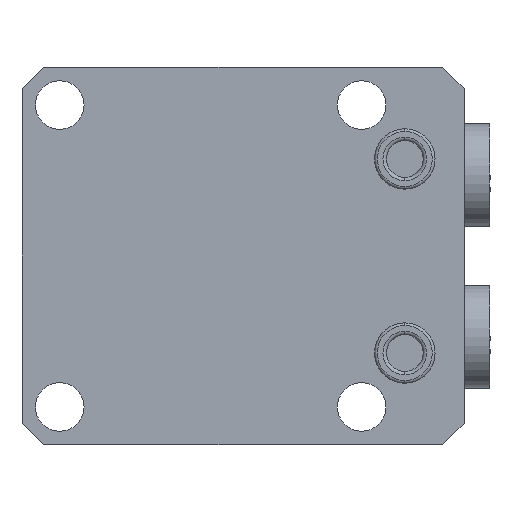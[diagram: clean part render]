
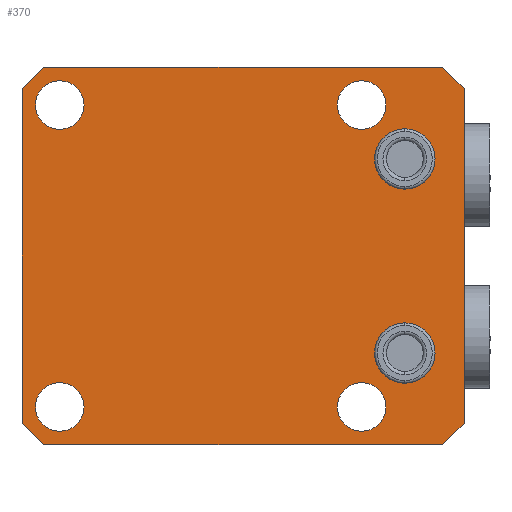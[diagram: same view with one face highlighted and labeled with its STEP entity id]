
A CAD part, front view. The second image highlights one B-rep face of the part: STEP entity #370.
In plain terms, the highlighted planar face has unit normal (0, -1, 0).
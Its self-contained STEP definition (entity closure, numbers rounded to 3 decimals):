
#232=PLANE('',#2701);
#293=FACE_BOUND('',#718,.T.);
#294=FACE_BOUND('',#719,.T.);
#295=FACE_BOUND('',#720,.T.);
#296=FACE_BOUND('',#721,.T.);
#297=FACE_BOUND('',#722,.T.);
#298=FACE_BOUND('',#723,.T.);
#299=FACE_BOUND('',#724,.T.);
#370=ADVANCED_FACE('',(#293,#294,#295,#296,#297,#298,#299),#232,.F.);
#718=EDGE_LOOP('',(#1128,#1129,#1130,#1131,#1132,#1133,#1134,#1135));
#719=EDGE_LOOP('',(#1136,#1137));
#720=EDGE_LOOP('',(#1138,#1139));
#721=EDGE_LOOP('',(#1140,#1141));
#722=EDGE_LOOP('',(#1142,#1143));
#723=EDGE_LOOP('',(#1144,#1145));
#724=EDGE_LOOP('',(#1146,#1147));
#911=CIRCLE('',#2672,4.5);
#913=CIRCLE('',#2675,4.5);
#915=CIRCLE('',#2678,4.5);
#917=CIRCLE('',#2681,4.5);
#921=CIRCLE('',#2687,5.6);
#923=CIRCLE('',#2691,5.6);
#925=CIRCLE('',#2694,5.6);
#926=CIRCLE('',#2696,4.5);
#927=CIRCLE('',#2697,4.5);
#928=CIRCLE('',#2698,4.5);
#929=CIRCLE('',#2699,4.5);
#930=CIRCLE('',#2700,5.6);
#1128=ORIENTED_EDGE('',*,*,#2049,.F.);
#1129=ORIENTED_EDGE('',*,*,#2050,.T.);
#1130=ORIENTED_EDGE('',*,*,#2051,.F.);
#1131=ORIENTED_EDGE('',*,*,#2052,.T.);
#1132=ORIENTED_EDGE('',*,*,#1970,.F.);
#1133=ORIENTED_EDGE('',*,*,#2053,.T.);
#1134=ORIENTED_EDGE('',*,*,#2054,.F.);
#1135=ORIENTED_EDGE('',*,*,#2055,.T.);
#1136=ORIENTED_EDGE('',*,*,#2020,.F.);
#1137=ORIENTED_EDGE('',*,*,#2056,.F.);
#1138=ORIENTED_EDGE('',*,*,#2016,.F.);
#1139=ORIENTED_EDGE('',*,*,#2057,.F.);
#1140=ORIENTED_EDGE('',*,*,#2012,.F.);
#1141=ORIENTED_EDGE('',*,*,#2058,.F.);
#1142=ORIENTED_EDGE('',*,*,#2008,.F.);
#1143=ORIENTED_EDGE('',*,*,#2059,.F.);
#1144=ORIENTED_EDGE('',*,*,#2060,.F.);
#1145=ORIENTED_EDGE('',*,*,#2030,.F.);
#1146=ORIENTED_EDGE('',*,*,#2045,.T.);
#1147=ORIENTED_EDGE('',*,*,#2048,.T.);
#1744=VERTEX_POINT('',#3741);
#1745=VERTEX_POINT('',#3743);
#1774=VERTEX_POINT('',#3820);
#1775=VERTEX_POINT('',#3821);
#1778=VERTEX_POINT('',#3829);
#1779=VERTEX_POINT('',#3830);
#1782=VERTEX_POINT('',#3838);
#1783=VERTEX_POINT('',#3839);
#1786=VERTEX_POINT('',#3847);
#1787=VERTEX_POINT('',#3848);
#1794=VERTEX_POINT('',#3871);
#1795=VERTEX_POINT('',#3873);
#1808=VERTEX_POINT('',#3934);
#1809=VERTEX_POINT('',#3936);
#1810=VERTEX_POINT('',#3943);
#1811=VERTEX_POINT('',#3944);
#1812=VERTEX_POINT('',#3946);
#1813=VERTEX_POINT('',#3948);
#1814=VERTEX_POINT('',#3951);
#1815=VERTEX_POINT('',#3953);
#1970=EDGE_CURVE('',#1744,#1745,#2315,.T.);
#2008=EDGE_CURVE('',#1774,#1775,#911,.T.);
#2012=EDGE_CURVE('',#1778,#1779,#913,.T.);
#2016=EDGE_CURVE('',#1782,#1783,#915,.T.);
#2020=EDGE_CURVE('',#1786,#1787,#917,.T.);
#2030=EDGE_CURVE('',#1794,#1795,#921,.T.);
#2045=EDGE_CURVE('',#1809,#1808,#923,.T.);
#2048=EDGE_CURVE('',#1808,#1809,#925,.T.);
#2049=EDGE_CURVE('',#1810,#1811,#2339,.T.);
#2050=EDGE_CURVE('',#1810,#1812,#2340,.T.);
#2051=EDGE_CURVE('',#1813,#1812,#2341,.T.);
#2052=EDGE_CURVE('',#1813,#1745,#2342,.T.);
#2053=EDGE_CURVE('',#1744,#1814,#2343,.T.);
#2054=EDGE_CURVE('',#1815,#1814,#2344,.T.);
#2055=EDGE_CURVE('',#1815,#1811,#2345,.T.);
#2056=EDGE_CURVE('',#1787,#1786,#926,.T.);
#2057=EDGE_CURVE('',#1783,#1782,#927,.T.);
#2058=EDGE_CURVE('',#1779,#1778,#928,.T.);
#2059=EDGE_CURVE('',#1775,#1774,#929,.T.);
#2060=EDGE_CURVE('',#1795,#1794,#930,.T.);
#2315=LINE('',#3742,#2467);
#2339=LINE('',#3942,#2491);
#2340=LINE('',#3945,#2492);
#2341=LINE('',#3947,#2493);
#2342=LINE('',#3949,#2494);
#2343=LINE('',#3950,#2495);
#2344=LINE('',#3952,#2496);
#2345=LINE('',#3954,#2497);
#2467=VECTOR('',#2964,1.);
#2491=VECTOR('',#3116,1.);
#2492=VECTOR('',#3117,1.);
#2493=VECTOR('',#3118,1.);
#2494=VECTOR('',#3119,1.);
#2495=VECTOR('',#3120,1.);
#2496=VECTOR('',#3121,1.);
#2497=VECTOR('',#3122,1.);
#2672=AXIS2_PLACEMENT_3D('',#3819,#3052,#3053);
#2675=AXIS2_PLACEMENT_3D('',#3828,#3060,#3061);
#2678=AXIS2_PLACEMENT_3D('',#3837,#3068,#3069);
#2681=AXIS2_PLACEMENT_3D('',#3846,#3076,#3077);
#2687=AXIS2_PLACEMENT_3D('',#3872,#3093,#3094);
#2691=AXIS2_PLACEMENT_3D('',#3935,#3105,#3106);
#2694=AXIS2_PLACEMENT_3D('',#3940,#3112,#3113);
#2696=AXIS2_PLACEMENT_3D('',#3955,#3123,#3124);
#2697=AXIS2_PLACEMENT_3D('',#3956,#3125,#3126);
#2698=AXIS2_PLACEMENT_3D('',#3957,#3127,#3128);
#2699=AXIS2_PLACEMENT_3D('',#3958,#3129,#3130);
#2700=AXIS2_PLACEMENT_3D('',#3959,#3131,#3132);
#2701=AXIS2_PLACEMENT_3D('',#3960,#3133,#3134);
#2964=DIRECTION('',(0.,0.,-1.));
#3052=DIRECTION('',(0.,-1.,0.));
#3053=DIRECTION('',(0.,0.,1.));
#3060=DIRECTION('',(0.,-1.,0.));
#3061=DIRECTION('',(0.,0.,1.));
#3068=DIRECTION('',(0.,-1.,0.));
#3069=DIRECTION('',(0.,0.,1.));
#3076=DIRECTION('',(0.,-1.,0.));
#3077=DIRECTION('',(0.,0.,1.));
#3093=DIRECTION('',(0.,-1.,0.));
#3094=DIRECTION('',(0.,0.,-1.));
#3105=DIRECTION('',(0.,1.,0.));
#3106=DIRECTION('',(0.,0.,1.));
#3112=DIRECTION('',(0.,1.,0.));
#3113=DIRECTION('',(0.,0.,1.));
#3116=DIRECTION('',(0.,0.,1.));
#3117=DIRECTION('',(0.707,0.,-0.707));
#3118=DIRECTION('',(-1.,0.,0.));
#3119=DIRECTION('',(0.707,0.,0.707));
#3120=DIRECTION('',(-0.707,0.,0.707));
#3121=DIRECTION('',(1.,0.,0.));
#3122=DIRECTION('',(-0.707,0.,-0.707));
#3123=DIRECTION('',(0.,-1.,0.));
#3124=DIRECTION('',(0.,0.,1.));
#3125=DIRECTION('',(0.,-1.,0.));
#3126=DIRECTION('',(0.,0.,1.));
#3127=DIRECTION('',(0.,-1.,0.));
#3128=DIRECTION('',(0.,0.,1.));
#3129=DIRECTION('',(0.,-1.,0.));
#3130=DIRECTION('',(0.,0.,1.));
#3131=DIRECTION('',(0.,-1.,0.));
#3132=DIRECTION('',(0.,0.,-1.));
#3133=DIRECTION('',(0.,1.,0.));
#3134=DIRECTION('',(0.,0.,1.));
#3741=CARTESIAN_POINT('',(47.,0.,31.));
#3742=CARTESIAN_POINT('',(47.,0.,-35.));
#3743=CARTESIAN_POINT('',(47.,0.,-31.));
#3819=CARTESIAN_POINT('',(-28.,0.,28.));
#3820=CARTESIAN_POINT('',(-28.,0.,32.5));
#3821=CARTESIAN_POINT('',(-28.,0.,23.5));
#3828=CARTESIAN_POINT('',(28.,0.,28.));
#3829=CARTESIAN_POINT('',(28.,0.,32.5));
#3830=CARTESIAN_POINT('',(28.,0.,23.5));
#3837=CARTESIAN_POINT('',(-28.,0.,-28.));
#3838=CARTESIAN_POINT('',(-28.,0.,-23.5));
#3839=CARTESIAN_POINT('',(-28.,0.,-32.5));
#3846=CARTESIAN_POINT('',(28.,0.,-28.));
#3847=CARTESIAN_POINT('',(28.,0.,-23.5));
#3848=CARTESIAN_POINT('',(28.,0.,-32.5));
#3871=CARTESIAN_POINT('',(36.,0.,-12.4));
#3872=CARTESIAN_POINT('',(36.,0.,-18.));
#3873=CARTESIAN_POINT('',(36.,0.,-23.6));
#3934=CARTESIAN_POINT('',(36.,0.,23.6));
#3935=CARTESIAN_POINT('',(36.,0.,18.));
#3936=CARTESIAN_POINT('',(36.,0.,12.4));
#3940=CARTESIAN_POINT('',(36.,0.,18.));
#3942=CARTESIAN_POINT('',(-35.,0.,-35.));
#3943=CARTESIAN_POINT('',(-35.,0.,-31.));
#3944=CARTESIAN_POINT('',(-35.,0.,31.));
#3945=CARTESIAN_POINT('',(-35.,0.,-31.));
#3946=CARTESIAN_POINT('',(-31.,0.,-35.));
#3947=CARTESIAN_POINT('',(-35.,0.,-35.));
#3948=CARTESIAN_POINT('',(43.,0.,-35.));
#3949=CARTESIAN_POINT('',(43.,0.,-35.));
#3950=CARTESIAN_POINT('',(47.,0.,31.));
#3951=CARTESIAN_POINT('',(43.,0.,35.));
#3952=CARTESIAN_POINT('',(-35.,0.,35.));
#3953=CARTESIAN_POINT('',(-31.,0.,35.));
#3954=CARTESIAN_POINT('',(-31.,0.,35.));
#3955=CARTESIAN_POINT('',(28.,0.,-28.));
#3956=CARTESIAN_POINT('',(-28.,0.,-28.));
#3957=CARTESIAN_POINT('',(28.,0.,28.));
#3958=CARTESIAN_POINT('',(-28.,0.,28.));
#3959=CARTESIAN_POINT('',(36.,0.,-18.));
#3960=CARTESIAN_POINT('',(-35.,0.,35.));
